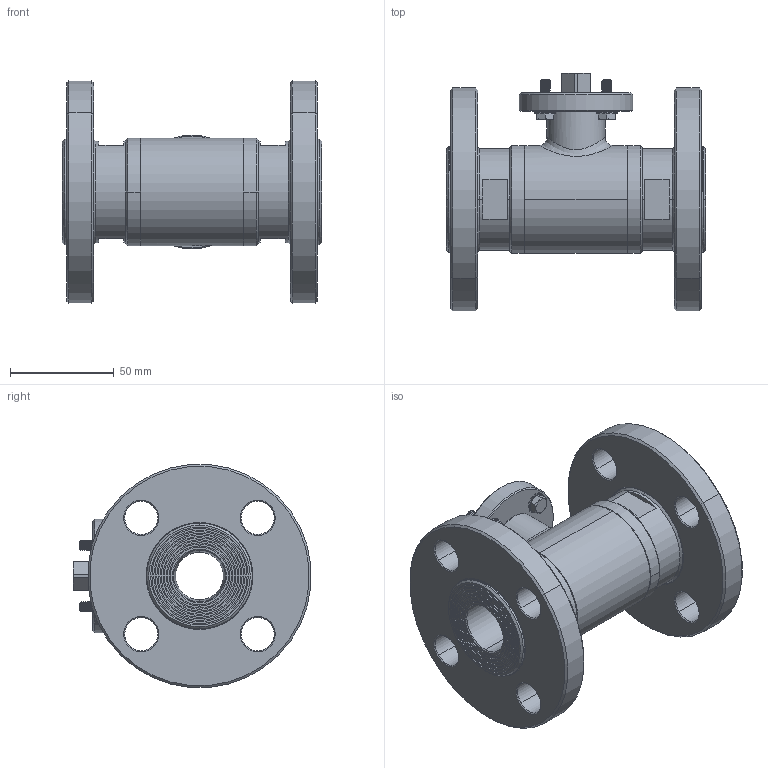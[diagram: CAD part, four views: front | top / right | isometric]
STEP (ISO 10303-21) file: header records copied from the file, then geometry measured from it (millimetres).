
FILE_DESCRIPTION((''),'2;1');
FILE_NAME('PARTE_VUOTA','2022-06-06T16:09:10',('alfio.taboni'),('CDM Tecnoconsulting'),'CREO PARAMETRIC BY PTC INC, 2020053','CREO PARAMETRIC BY PTC INC, 2020053','');
FILE_SCHEMA(('CONFIG_CONTROL_DESIGN','SHAPE_APPEARANCE_LAYERS_GROUPS'));
Products named in the file (1): PARTE_VUOTA
Bounding box: 125 x 114.79 x 107.59 mm (x, y, z)
Volume: 379950.1 mm3; surface area: 96565.4 mm2
Topology: 1 solids, 10 shells, 1391 faces, 3930 edges, 2500 vertices
Faces by surface type: plane 465, cylinder 417, cone 234, bspline 119, torus 96, extrusion 56, sphere 4
Entity records: 85511 total; most frequent: CARTESIAN_POINT 39306, ORIENTED_EDGE 7848, DIRECTION 6303, PRESENTATION_STYLE_ASSIGNMENT 3931, STYLED_ITEM 3925, CURVE_STYLE 3924, EDGE_CURVE 3924, VERTEX_POINT 2500
